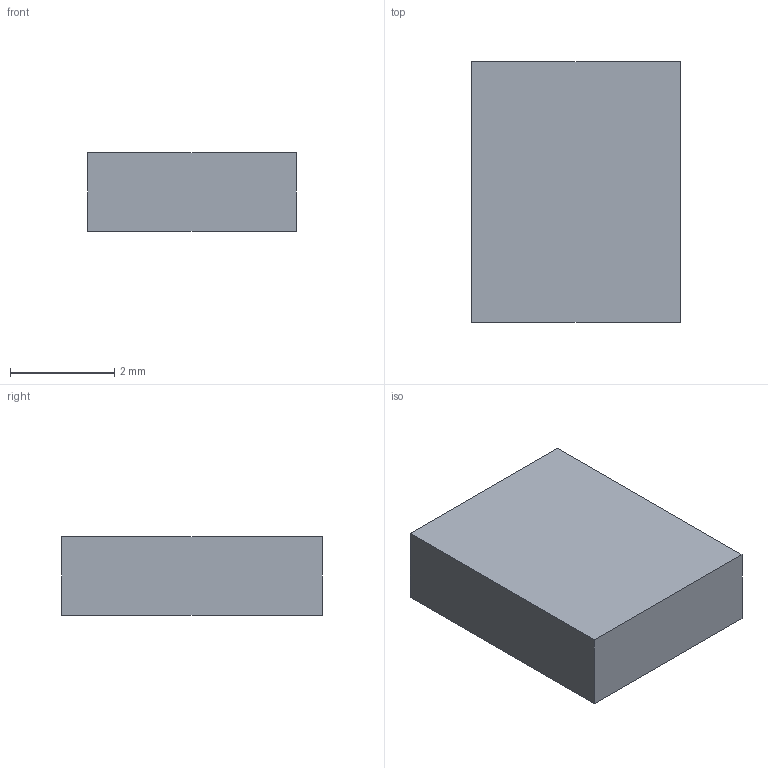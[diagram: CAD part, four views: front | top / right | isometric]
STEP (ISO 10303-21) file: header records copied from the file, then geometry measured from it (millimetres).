
FILE_DESCRIPTION(('Open CASCADE Model'),'2;1');
FILE_NAME('Open CASCADE Shape Model','2026-10-17T17:22:13',('Author'),( 'Open CASCADE'),'Open CASCADE STEP processor 7.9','Open CASCADE 7.9' ,'Unknown');
FILE_SCHEMA(('AUTOMOTIVE_DESIGN { 1 0 10303 214 1 1 1 1 }'));
Length unit declared in the file: millimetre
Products named in the file (1): Open CASCADE STEP translator 7.9 12
Bounding box: 4 x 5 x 1.5 mm (x, y, z)
Volume: 30 mm3; surface area: 67 mm2
Topology: 1 solids, 1 shells, 6 faces, 12 edges, 8 vertices
Faces by surface type: plane 6
Entity records: 322 total; most frequent: CARTESIAN_POINT 51, DIRECTION 50, LINE 36, VECTOR 36, ORIENTED_EDGE 24, PCURVE 24, DEFINITIONAL_REPRESENTATION 24, EDGE_CURVE 12
